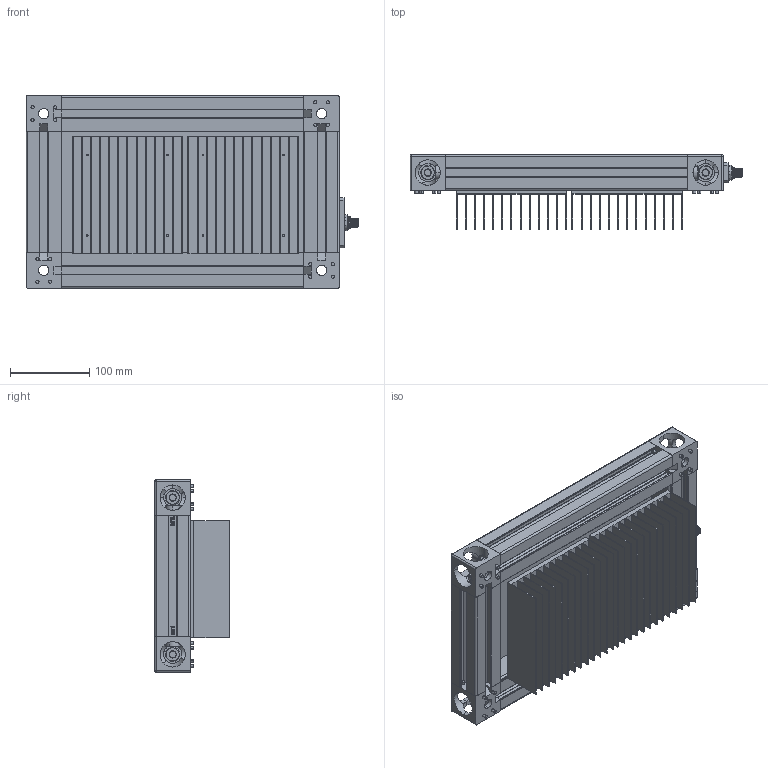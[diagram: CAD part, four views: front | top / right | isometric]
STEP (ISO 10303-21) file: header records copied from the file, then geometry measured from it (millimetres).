
FILE_DESCRIPTION (( 'STEP AP214' ), '1' );
FILE_NAME ('MOBL 300x150.STEP', '2015-05-13T21:54:16', ( '' ), ( '' ), 'SwSTEP 2.0', 'SolidWorks 2015', '' );
FILE_SCHEMA (( 'AUTOMOTIVE_DESIGN' ));
Length unit declared in the file: millimetre
Products named in the file (13): HOBL; Input Assembly; M12 Nut; Screw holder; Screws -- short_FB08.0-015; Input Mounting Plate_A; M12_Male; Lens_306x153; 4545-EXT01-R2_300; 4545-EXT01-R2_150; Bosch Gusset - 3 842 523 874; 93070A241_93070A241; MOBL 300x150
Assembly tree (27 placements, depth 3):
  MOBL 300x150
    93070A241_93070A241  x8
    Bosch Gusset - 3 842 523 874  x4
    4545-EXT01-R2_150  x2
    4545-EXT01-R2_300  x2
    Lens_306x153
    Input Assembly
      M12_Male
      Input Mounting Plate_A
      Screws -- short_FB08.0-015  x2
      Screw holder  x2
      M12 Nut
    HOBL  x2
Bounding box: 419.47 x 93.8 x 243 mm (x, y, z)
Volume: 1447374.7 mm3; surface area: 1132208.1 mm2
Topology: 26 solids, 27 shells, 2066 faces, 5582 edges, 3644 vertices
Faces by surface type: cylinder 1076, plane 740, cone 156, bspline 86, sphere 4, torus 4
Entity records: 53196 total; most frequent: CARTESIAN_POINT 27820, ORIENTED_EDGE 4964, DIRECTION 4511, EDGE_CURVE 2482, VERTEX_POINT 1633, AXIS2_PLACEMENT_3D 1591, VECTOR 1329, LINE 1329
